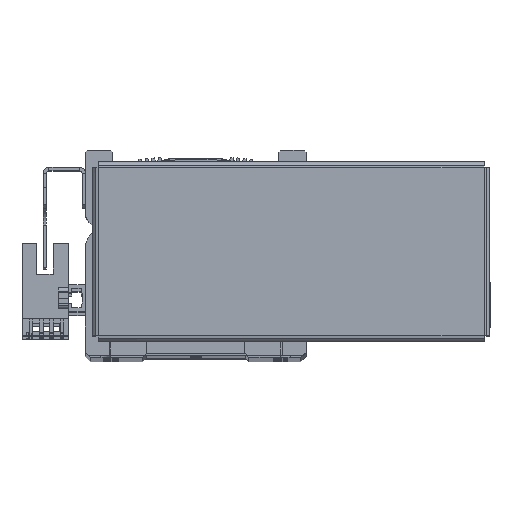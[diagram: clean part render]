
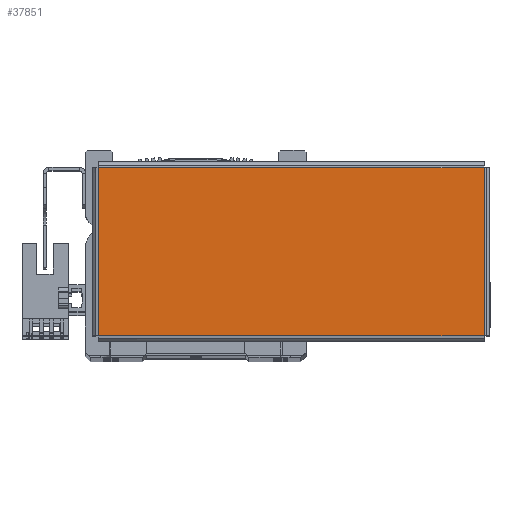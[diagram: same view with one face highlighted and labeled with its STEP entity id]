
A CAD part, top view. The second image highlights one B-rep face of the part: STEP entity #37851.
In plain terms, the highlighted planar face has unit normal (0, 0, 1) as drawn and (0, 0, -1) by its records, which use the part's own axes.
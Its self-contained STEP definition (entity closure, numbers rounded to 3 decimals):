
#6612 = VERTEX_POINT ( 'NONE', #20221 ) ;
#6630 = VERTEX_POINT ( 'NONE', #20269 ) ;
#6635 = VERTEX_POINT ( 'NONE', #20313 ) ;
#6652 = VERTEX_POINT ( 'NONE', #20260 ) ;
#11218 = PLANE ( 'NONE',  #35152 ) ;
#11245 = CARTESIAN_POINT ( 'NONE',  ( 0., 0., -1. ) ) ;
#11254 = DIRECTION ( 'NONE',  ( 0., 0., 1. ) ) ;
#11257 = DIRECTION ( 'NONE',  ( 1., 0., 0. ) ) ;
#20221 = CARTESIAN_POINT ( 'NONE',  ( -56.863, -24.763, -1. ) ) ;
#20260 = CARTESIAN_POINT ( 'NONE',  ( -56.863, 24.763, -1. ) ) ;
#20269 = CARTESIAN_POINT ( 'NONE',  ( 56.863, 24.763, -1. ) ) ;
#20313 = CARTESIAN_POINT ( 'NONE',  ( 56.863, -24.763, -1. ) ) ;
#25540 = FACE_OUTER_BOUND ( 'NONE', #33902, .T. ) ;
#28093 = ORIENTED_EDGE ( 'NONE', *, *, #31887, .T. ) ;
#28171 = ORIENTED_EDGE ( 'NONE', *, *, #31889, .T. ) ;
#28174 = ORIENTED_EDGE ( 'NONE', *, *, #31911, .T. ) ;
#28227 = ORIENTED_EDGE ( 'NONE', *, *, #31892, .T. ) ;
#31887 = EDGE_CURVE ( 'NONE', #6635, #6612, #42661, .T. ) ;
#31889 = EDGE_CURVE ( 'NONE', #6612, #6652, #42674, .T. ) ;
#31892 = EDGE_CURVE ( 'NONE', #6652, #6630, #42666, .T. ) ;
#31911 = EDGE_CURVE ( 'NONE', #6630, #6635, #42637, .T. ) ;
#33902 = EDGE_LOOP ( 'NONE', ( #28174, #28093, #28171, #28227 ) ) ;
#35152 = AXIS2_PLACEMENT_3D ( 'NONE', #11245, #11254, #11257 ) ;
#36345 = DIRECTION ( 'NONE',  ( -1., 0., 0. ) ) ;
#36360 = CARTESIAN_POINT ( 'NONE',  ( -56.863, -24.793, -1. ) ) ;
#36368 = CARTESIAN_POINT ( 'NONE',  ( 56.893, -24.763, -1. ) ) ;
#36375 = DIRECTION ( 'NONE',  ( 0., 1., 0. ) ) ;
#36411 = CARTESIAN_POINT ( 'NONE',  ( -56.893, 24.763, -1. ) ) ;
#36428 = DIRECTION ( 'NONE',  ( 1., 0., 0. ) ) ;
#36445 = CARTESIAN_POINT ( 'NONE',  ( 56.863, 24.793, -1. ) ) ;
#36473 = DIRECTION ( 'NONE',  ( 0., -1., 0. ) ) ;
#37851 = ADVANCED_FACE ( 'NONE', ( #25540 ), #11218, .F. ) ;
#42623 = VECTOR ( 'NONE', #36345, 1000. ) ;
#42627 = VECTOR ( 'NONE', #36428, 1000. ) ;
#42637 = LINE ( 'NONE', #36445, #42646 ) ;
#42646 = VECTOR ( 'NONE', #36473, 1000. ) ;
#42661 = LINE ( 'NONE', #36368, #42623 ) ;
#42666 = LINE ( 'NONE', #36411, #42627 ) ;
#42674 = LINE ( 'NONE', #36360, #42680 ) ;
#42680 = VECTOR ( 'NONE', #36375, 1000. ) ;
